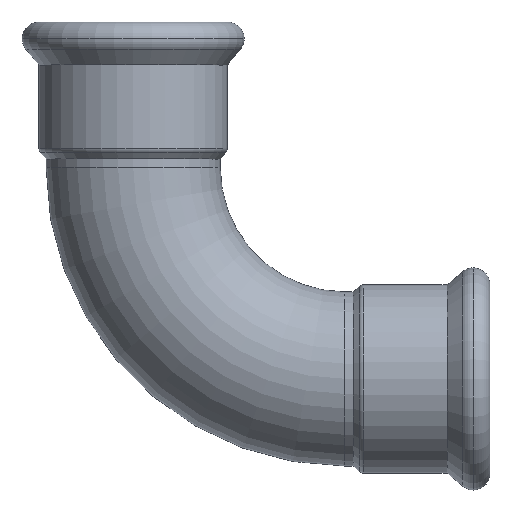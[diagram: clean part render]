
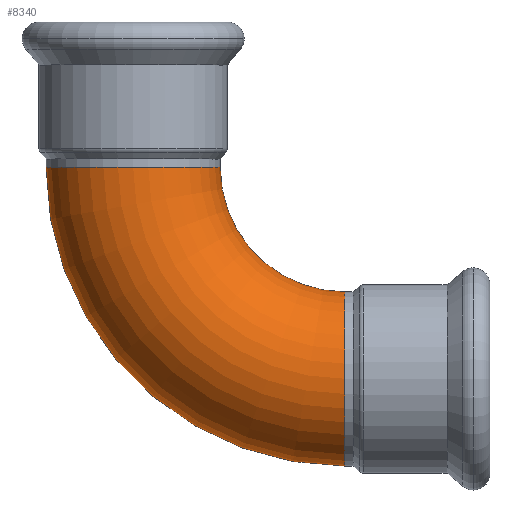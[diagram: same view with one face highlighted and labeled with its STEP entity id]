
A CAD part, top view. The second image highlights one B-rep face of the part: STEP entity #8340.
In plain terms, the highlighted toroidal (fillet/blend) face has major radius 51 mm and minor radius 21 mm.
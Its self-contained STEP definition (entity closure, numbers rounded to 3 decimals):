
#6910=CARTESIAN_POINT('',(-50.154,195.131,0.));
#6920=DIRECTION('',(0.,-1.,0.));
#6930=DIRECTION('',(-1.,0.,0.));
#6940=AXIS2_PLACEMENT_3D('',#6910,#6920,#6930);
#6950=CIRCLE('',#6940,21.);
#6960=CARTESIAN_POINT('',(-50.154,195.131,21.));
#6970=VERTEX_POINT('',#6960);
#6980=CARTESIAN_POINT('',(-71.154,195.131,0.));
#6990=VERTEX_POINT('',#6980);
#7000=EDGE_CURVE('',#6970,#6990,#6950,.T.);
#7140=CARTESIAN_POINT('',(-29.154,195.131,
0.));
#7150=VERTEX_POINT('',#7140);
#7180=EDGE_CURVE('',#7150,#6970,#6950,.T.);
#7320=CARTESIAN_POINT('',(0.846,165.131,0.));
#7330=VERTEX_POINT('',#7320);
#7380=CARTESIAN_POINT('',(0.846,144.131,0.));
#7390=DIRECTION('',(1.,0.,0.));
#7400=DIRECTION('',(0.,-1.,0.));
#7410=AXIS2_PLACEMENT_3D('',#7380,#7390,#7400);
#7420=CIRCLE('',#7410,21.);
#7430=CARTESIAN_POINT('',(0.846,123.131,
0.));
#7440=VERTEX_POINT('',#7430);
#8090=CARTESIAN_POINT('',(0.846,195.131,0.));
#8100=DIRECTION('',(0.,0.,1.));
#8110=DIRECTION('',(-1.,0.,0.));
#8120=AXIS2_PLACEMENT_3D('',#8090,#8100,#8110);
#8130=TOROIDAL_SURFACE('',#8120,51.,21.);
#8140=CARTESIAN_POINT('',(0.846,195.131,
0.));
#8150=DIRECTION('',(0.,0.,1.));
#8160=DIRECTION('',(-1.,0.,0.));
#8170=AXIS2_PLACEMENT_3D('',#8140,#8150,#8160);
#8180=CIRCLE('',#8170,72.);
#8190=EDGE_CURVE('',#6990,#7440,#8180,.T.);
#8200=ORIENTED_EDGE('',*,*,#8190,.T.);
#8210=ORIENTED_EDGE('',*,*,#7000,.T.);
#8220=ORIENTED_EDGE('',*,*,#7180,.T.);
#8230=CARTESIAN_POINT('',(0.846,195.131,
0.));
#8240=DIRECTION('',(0.,0.,1.));
#8250=DIRECTION('',(-1.,0.,0.));
#8260=AXIS2_PLACEMENT_3D('',#8230,#8240,#8250);
#8270=CIRCLE('',#8260,30.);
#8280=EDGE_CURVE('',#7150,#7330,#8270,.T.);
#8290=ORIENTED_EDGE('',*,*,#8280,.F.);
#8300=EDGE_CURVE('',#7330,#7440,#7420,.T.);
#8310=ORIENTED_EDGE('',*,*,#8300,.F.);
#8320=EDGE_LOOP('',(#8310,#8290,#8220,#8210,#8200));
#8330=FACE_OUTER_BOUND('',#8320,.T.);
#8340=ADVANCED_FACE('',(#8330),#8130,.T.);
